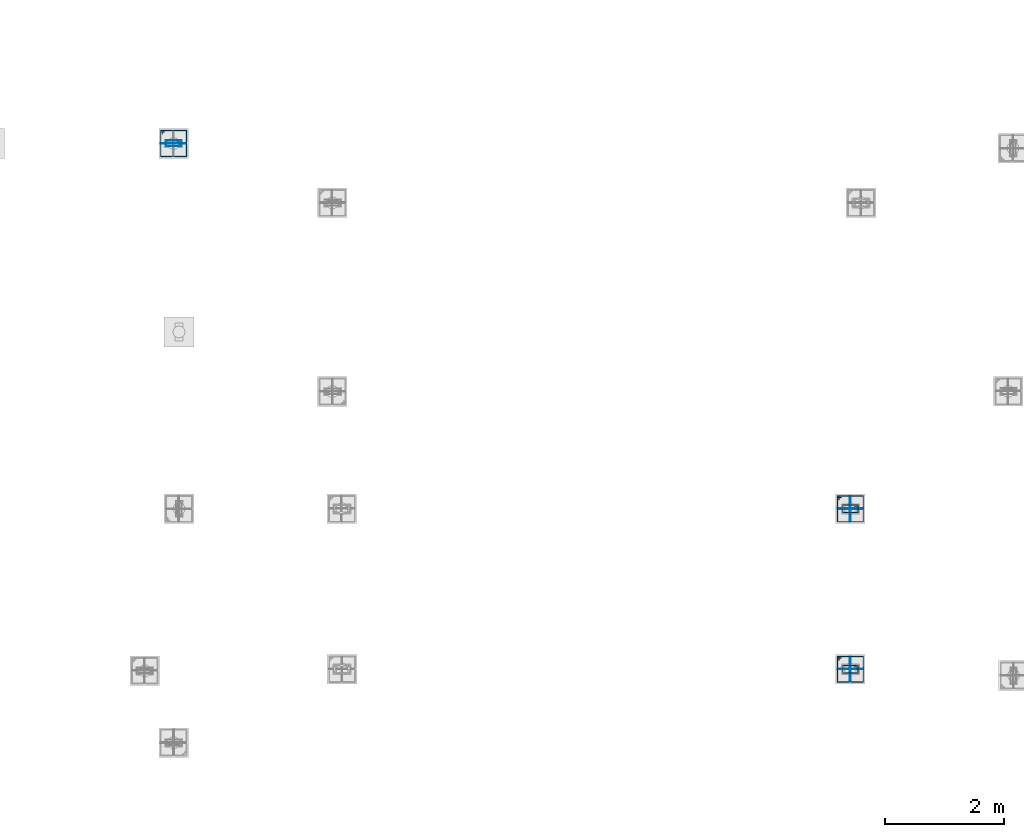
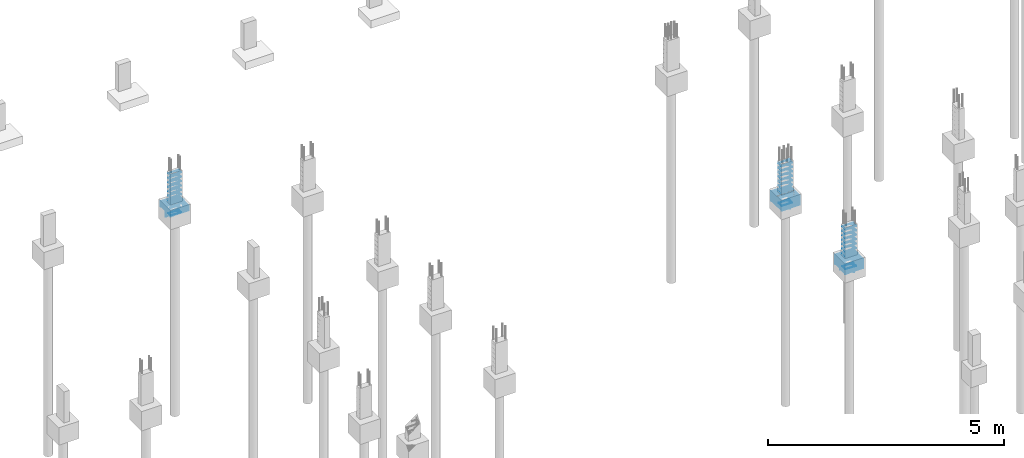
# One storey, part 106 of 119: 48 reinforcing bars.
"""IFC4 building model written with IfcOpenShell, lengths in centimetres."""

import ifcopenshell
import ifcopenshell.guid

model = None  # the IFC model being written
_history = None  # IfcOwnerHistory: only IFC2X3 demands one
_inside = {}  # id of a spatial element -> (the spatial element, [elements in it])
_under = {}  # id of a project, library or spatial element -> (it, [spatial elements below it])
_declared = {}  # id of a project -> (the project, [libraries it declares])
_typed = {}  # id of a type object -> (the type object, [elements of that type])
_made_of = {}  # id of a material, layer set ... -> (it, [elements and type objects made of it])


def new_model(schema):
    """Start an empty IFC model of exactly this schema.

    Asked for "IFC4X3", IfcOpenShell would pick the latest addendum, in which some entities
    have other attributes; the version numbers below select the first issue.
    IFC2X3 requires an IfcOwnerHistory on every rooted entity: one is made here for all.
    """
    global model, _history
    if schema == "IFC4X3":
        model = ifcopenshell.file(schema_version=(4, 3, 0, 0))
    else:
        model = ifcopenshell.file(schema=schema)
    _inside.clear()
    _under.clear()
    _declared.clear()
    _typed.clear()
    _made_of.clear()
    _history = None
    if model.schema == "IFC2X3":
        org = make("IfcOrganization", Name="unknown")
        user = make(
            "IfcPersonAndOrganization",
            ThePerson=make("IfcPerson", FamilyName="unknown"),
            TheOrganization=org,
        )
        app = make(
            "IfcApplication",
            ApplicationDeveloper=org,
            Version="unknown",
            ApplicationFullName="unknown",
            ApplicationIdentifier="unknown",
        )
        _history = make(
            "IfcOwnerHistory",
            OwningUser=user,
            OwningApplication=app,
            ChangeAction="ADDED",
            CreationDate=0,
        )
    return model


def make(cls, **values):
    """One entity of the class cls with the attributes given. An attribute that is None is left unset."""
    return model.create_entity(
        cls, **{name: value for name, value in values.items() if value is not None}
    )


def entity(cls, *values):
    """Any entity or typed value of the class cls, its attributes in the order of the schema. None: left unset."""
    e = model.create_entity(cls)
    for i, value in enumerate(values):
        if value is not None:
            e[i] = value
    return e


def rooted(cls, **values):
    """An entity with a GlobalId (a new one), such as an element, a storey or a relation."""
    return make(cls, GlobalId=ifcopenshell.guid.new(), OwnerHistory=_history, **values)


def si_unit(unit_type, name, prefix=None):
    """IfcSIUnit, for example si_unit("LENGTHUNIT", "METRE", prefix="MILLI")."""
    return make("IfcSIUnit", UnitType=unit_type, Prefix=prefix, Name=name)


def derived_unit(unit_type, elements):
    """IfcDerivedUnit: a product of units, each with its exponent."""
    return make(
        "IfcDerivedUnit",
        Elements=[
            make("IfcDerivedUnitElement", Unit=unit, Exponent=power)
            for unit, power in elements
        ],
        UnitType=unit_type,
    )


def assignment(units):
    """IfcUnitAssignment: the units of a project."""
    return None if units is None else make("IfcUnitAssignment", Units=units)


def point(xyz):
    """IfcCartesianPoint."""
    return None if xyz is None else make("IfcCartesianPoint", Coordinates=xyz)


def direction(xyz):
    """IfcDirection."""
    return None if xyz is None else make("IfcDirection", DirectionRatios=xyz)


def frame(location, z_axis=None, x_axis=None):
    """IfcAxis2Placement3D, a coordinate frame: its origin and axes. An axis left out is left unset."""
    return make(
        "IfcAxis2Placement3D",
        Location=point(location),
        Axis=direction(z_axis),
        RefDirection=direction(x_axis),
    )


def origin_with_axes():
    """The frame at (0, 0, 0) with the z axis (0, 0, 1) and the x axis (1, 0, 0) written out."""
    return frame((0.0, 0.0, 0.0), z_axis=(0.0, 0.0, 1.0), x_axis=(1.0, 0.0, 0.0))


def place(relative_to, where):
    """IfcLocalPlacement: puts the frame where relative to a parent placement (None: the world)."""
    return make(
        "IfcLocalPlacement", PlacementRelTo=relative_to, RelativePlacement=where
    )


def context(
    kind, dimensions, precision=None, world=None, true_north=None, identifier=None
):
    """IfcGeometricRepresentationContext, for example the 3D "Model" context."""
    return make(
        "IfcGeometricRepresentationContext",
        ContextIdentifier=identifier,
        ContextType=kind,
        CoordinateSpaceDimension=dimensions,
        Precision=precision,
        WorldCoordinateSystem=world,
        TrueNorth=true_north,
    )


def project(units=None, contexts=None):
    """IfcProject with its units and contexts."""
    return rooted(
        "IfcProject",
        Name="project",
        RepresentationContexts=contexts,
        UnitsInContext=assignment(units),
    )


def spatial(cls, under=None, at=None, **own):
    """A site, building, storey or space (cls), placed at a placement, below another one or the project."""
    s = rooted(cls, ObjectPlacement=at, **own)
    if under is not None:
        _under.setdefault(under.id(), (under, []))[1].append(s)
    return s


def shape(context_of_items, identifier, shape_type, items):
    """IfcShapeRepresentation: the items that make up one representation, for example the "Body"."""
    return make(
        "IfcShapeRepresentation",
        ContextOfItems=context_of_items,
        RepresentationIdentifier=identifier,
        RepresentationType=shape_type,
        Items=items,
    )


def source(mapping_origin, context_of_items, identifier, shape_type, items):
    """IfcRepresentationMap: a shape defined once, which mapped items show again and again."""
    return make(
        "IfcRepresentationMap",
        MappingOrigin=mapping_origin,
        MappedRepresentation=shape(context_of_items, identifier, shape_type, items),
    )


def transform(
    local_origin,
    x_axis=None,
    y_axis=None,
    z_axis=None,
    scale=None,
    scale2=None,
    scale3=None,
    uniform=True,
):
    """IfcCartesianTransformationOperator3D, or its non-uniform kind. x_axis, y_axis, z_axis: its Axis1, 2, 3."""
    if uniform:
        return make(
            "IfcCartesianTransformationOperator3D",
            Axis1=direction(x_axis),
            Axis2=direction(y_axis),
            LocalOrigin=point(local_origin),
            Scale=scale,
            Axis3=direction(z_axis),
        )
    return make(
        "IfcCartesianTransformationOperator3DnonUniform",
        Axis1=direction(x_axis),
        Axis2=direction(y_axis),
        LocalOrigin=point(local_origin),
        Scale=scale,
        Axis3=direction(z_axis),
        Scale2=scale2,
        Scale3=scale3,
    )


def mapped(mapping_source, mapping_target):
    """IfcMappedItem: shows the shape of a source again, moved by a transform."""
    return make(
        "IfcMappedItem", MappingSource=mapping_source, MappingTarget=mapping_target
    )


def made_of(thing, what):
    """Note that an element or type object is made of a material, layer set ...; save() writes the relation."""
    if what is not None:
        _made_of.setdefault(what.id(), (what, []))[1].append(thing)
    return thing


def element(
    cls,
    number,
    at=None,
    inside=None,
    cuts=None,
    type_object=None,
    material=None,
    context=None,
    identifier="Body",
    shape_type=None,
    held_by="IfcProductDefinitionShape",
    body=None,
    shapes=None,
    **own,
):
    """One element of the class cls, such as IfcWall. Its Tag is "e" and its number.

    at: its placement. inside: the storey or other place that contains it. cuts: it is an
    opening in that element (IfcRelVoidsElement). A single representation is given by context,
    identifier, shape_type and body (its items); several are given by shapes. held_by: the class
    of the entity that holds the representations. save() writes the other relations.
    """
    e = rooted(cls, Tag="e%d" % number, ObjectPlacement=at, **own)
    if body is not None:
        shapes = [shape(context, identifier, shape_type, body)]
    if shapes is not None:
        e.Representation = make(held_by, Representations=shapes)
    if inside is not None:
        _inside.setdefault(inside.id(), (inside, []))[1].append(e)
    if cuts is not None:
        rooted(
            "IfcRelVoidsElement", RelatingBuildingElement=cuts, RelatedOpeningElement=e
        )
    if type_object is not None:
        _typed.setdefault(type_object.id(), (type_object, []))[1].append(e)
    return made_of(e, material)


def aggregate(whole, parts):
    """IfcRelAggregates: a whole, such as a stair, and the parts it consists of."""
    return rooted("IfcRelAggregates", RelatingObject=whole, RelatedObjects=parts)


def save(model, path):
    """Write the relations noted so far, then the file.

    IfcRelAggregates (storeys below a building ...), IfcRelContainedInSpatialStructure (elements
    in a storey), IfcRelDefinesByType, IfcRelAssociatesMaterial and IfcRelDeclares: one each for
    every whole, place, type object, material and project.
    """
    for whole, parts in _under.values():
        aggregate(whole, parts)
    for where, things in _inside.values():
        rooted(
            "IfcRelContainedInSpatialStructure",
            RelatedElements=things,
            RelatingStructure=where,
        )
    for kind, things in _typed.values():
        rooted("IfcRelDefinesByType", RelatedObjects=things, RelatingType=kind)
    for what, things in _made_of.values():
        rooted("IfcRelAssociatesMaterial", RelatedObjects=things, RelatingMaterial=what)
    for by, libraries in _declared.values():
        rooted("IfcRelDeclares", RelatingContext=by, RelatedDefinitions=libraries)
    model.write(path)


model = new_model("IFC4")

# Units and contexts
model_context = context("Model", 3, precision=1e-05, world=origin_with_axes(), identifier="Body")
ifc_project = project(units=[si_unit("LENGTHUNIT", "METRE", prefix="CENTI"), si_unit("VOLUMEUNIT", "CUBIC_METRE"), si_unit("AREAUNIT", "SQUARE_METRE"), si_unit("POWERUNIT", "WATT"), si_unit("LUMINOUSFLUXUNIT", "LUMEN"), si_unit("ELECTRICCURRENTUNIT", "AMPERE"), si_unit("PRESSUREUNIT", "PASCAL", prefix="KILO"), si_unit("MASSUNIT", "GRAM", prefix="KILO"), si_unit("PLANEANGLEUNIT", "RADIAN"), derived_unit("VOLUMETRICFLOWRATEUNIT", [(si_unit("LENGTHUNIT", "METRE"), 3), (si_unit("TIMEUNIT", "SECOND"), -1)])], contexts=[model_context])

# Site, building, storey
site_placement = place(None, frame((-4000.0, 0.0, 0.0), z_axis=(0.0, 0.0, 1.0), x_axis=(1.0, 0.0, 0.0)))
site = spatial("IfcSite", under=ifc_project, at=site_placement, Name="PADRÃO")
building_placement = place(site_placement, frame((0.0, 0.0, -14.0)))
building = spatial("IfcBuilding", under=site, at=building_placement, Name="CRECHE PRÉ-ESCOLA TIPO 2")
storey_placement = place(building_placement, origin_with_axes())
storey = spatial("IfcBuildingStorey", under=building, at=storey_placement, Name="FUNDAÇÃO", CompositionType="ELEMENT", Elevation=-14.0)

# Reinforcing bars
shared_shape_1 = source(origin_with_axes(), model_context, "Body", "AdvancedSweptSolid", [
    entity("IfcSweptDiskSolid", entity("IfcCompositeCurve", [entity("IfcCompositeCurveSegment", "CONTINUOUS", True, entity("IfcPolyline", [entity("IfcCartesianPoint", [4.25, 21.75, 0.0]), entity("IfcCartesianPoint", [4.25, 27.75, 0.0])])), entity("IfcCompositeCurveSegment", "CONTINUOUS", True, entity("IfcPolyline", [entity("IfcCartesianPoint", [4.25, 27.75, 0.0]), entity("IfcCartesianPoint", [2.25, 27.75, 0.0])])), entity("IfcCompositeCurveSegment", "CONTINUOUS", True, entity("IfcPolyline", [entity("IfcCartesianPoint", [2.25, 27.75, 0.0]), entity("IfcCartesianPoint", [2.25, 2.25, 0.0])])), entity("IfcCompositeCurveSegment", "CONTINUOUS", True, entity("IfcPolyline", [entity("IfcCartesianPoint", [2.25, 2.25, 0.0]), entity("IfcCartesianPoint", [14.75, 2.25, 0.0])])), entity("IfcCompositeCurveSegment", "CONTINUOUS", True, entity("IfcPolyline", [entity("IfcCartesianPoint", [14.75, 2.25, 0.0]), entity("IfcCartesianPoint", [14.75, 27.75, -0.5])])), entity("IfcCompositeCurveSegment", "CONTINUOUS", True, entity("IfcPolyline", [entity("IfcCartesianPoint", [14.75, 27.75, -0.5]), entity("IfcCartesianPoint", [2.25, 27.75, -0.5])])), entity("IfcCompositeCurveSegment", "CONTINUOUS", True, entity("IfcPolyline", [entity("IfcCartesianPoint", [2.25, 27.75, -0.5]), entity("IfcCartesianPoint", [2.25, 25.75, -0.5])])), entity("IfcCompositeCurveSegment", "CONTINUOUS", True, entity("IfcPolyline", [entity("IfcCartesianPoint", [2.25, 25.75, -0.5]), entity("IfcCartesianPoint", [8.25, 25.75, -0.5])]))], False), 0.25),
])
for number, where, z_axis, x_axis, name in (
    (1, (2233.76, 3478.52, -5.75), (0.0, 0.0, 1.0), (0.0, -1.0, 0.0), "P42 - Estribo"),
    (2, (2233.76, 3478.52, -28.75), (0.0, 0.0, 1.0), (0.0, -1.0, 0.0), "P42 - Estribo"),
    (3, (2233.76, 3478.52, -40.25), (0.0, 0.0, 1.0), (0.0, -1.0, 0.0), "P42 - Estribo"),
    (4, (2233.76, 3478.52, -51.75), (0.0, 0.0, 1.0), (0.0, -1.0, 0.0), "P42 - Estribo"),
    (5, (2233.76, 3478.52, -63.25), (0.0, 0.0, 1.0), (0.0, -1.0, 0.0), "P42 - Estribo"),
    (6, (2233.76, 3478.52, -74.75), (0.0, 0.0, 1.0), (0.0, -1.0, 0.0), "P42 - Estribo"),
    (7, (2233.76, 3478.52, -17.25), (0.0, 0.0, 1.0), (0.0, -1.0, 0.0), "P42 - Estribo"),
    (8, (2233.76, 3478.52, -97.75), (0.0, 0.0, 1.0), (0.0, -1.0, 0.0), "P42 - Estribo"),
    (9, (2233.76, 3478.52, -86.25), (0.0, 0.0, 1.0), (0.0, -1.0, 0.0), "P42 - Estribo"),
    (10, (2233.76, 3478.52, -109.25), (0.0, 0.0, 1.0), (0.0, -1.0, 0.0), "P42 - Estribo"),
):
    element("IfcReinforcingBar", number, at=place(storey_placement, frame(where, z_axis=z_axis, x_axis=x_axis)), inside=storey, Name=name, BarLength=0.0, CrossSectionArea=1.9634954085e-05, NominalDiameter=0.5, PredefinedType="MAIN", context=model_context, shape_type="MappedRepresentation", body=[
        mapped(shared_shape_1, transform((0.0, 0.0, 0.0), scale=1.0)),
    ])
shared_shape_2 = source(origin_with_axes(), model_context, "Body", "AdvancedSweptSolid", [
    entity("IfcSweptDiskSolid", entity("IfcCompositeCurve", [entity("IfcCompositeCurveSegment", "CONTINUOUS", True, entity("IfcPolyline", [entity("IfcCartesianPoint", [2229.595, 3485.445, 0.0]), entity("IfcCartesianPoint", [2229.595, 3491.705, 0.0])])), entity("IfcCompositeCurveSegment", "CONTINUOUS", True, entity("IfcPolyline", [entity("IfcCartesianPoint", [2229.595, 3491.705, 0.0]), entity("IfcCartesianPoint", [2227.075, 3491.705, 0.0])])), entity("IfcCompositeCurveSegment", "CONTINUOUS", True, entity("IfcPolyline", [entity("IfcCartesianPoint", [2227.075, 3491.705, 0.0]), entity("IfcCartesianPoint", [2227.075, 3448.335, 0.0])])), entity("IfcCompositeCurveSegment", "CONTINUOUS", True, entity("IfcPolyline", [entity("IfcCartesianPoint", [2227.075, 3448.335, 0.0]), entity("IfcCartesianPoint", [2270.445, 3448.335, 0.63])])), entity("IfcCompositeCurveSegment", "CONTINUOUS", True, entity("IfcPolyline", [entity("IfcCartesianPoint", [2270.445, 3448.335, 0.63]), entity("IfcCartesianPoint", [2270.445, 3491.705, 0.63])])), entity("IfcCompositeCurveSegment", "CONTINUOUS", True, entity("IfcPolyline", [entity("IfcCartesianPoint", [2270.445, 3491.705, 0.63]), entity("IfcCartesianPoint", [2227.075, 3491.705, 0.63])])), entity("IfcCompositeCurveSegment", "CONTINUOUS", True, entity("IfcPolyline", [entity("IfcCartesianPoint", [2227.075, 3491.705, 0.63]), entity("IfcCartesianPoint", [2227.075, 3489.185, 0.63])])), entity("IfcCompositeCurveSegment", "CONTINUOUS", True, entity("IfcPolyline", [entity("IfcCartesianPoint", [2227.075, 3489.185, 0.63]), entity("IfcCartesianPoint", [2233.335, 3489.185, 0.63])]))], False), 0.315),
])
for number, where, z_axis, x_axis, name in (
    (11, (0.0, 0.0, -92.225), (0.0, 0.0, 1.0), (1.0, 0.0, 0.0), "P42 - Blocos (estribos)"),
    (12, (0.0, 0.0, -109.175), (0.0, 0.0, 1.0), (1.0, 0.0, 0.0), "P42 - Blocos (estribos)"),
    (13, (0.0, 0.0, -103.525), (0.0, 0.0, 1.0), (1.0, 0.0, 0.0), "P42 - Blocos (estribos)"),
    (14, (0.0, 0.0, -97.875), (0.0, 0.0, 1.0), (1.0, 0.0, 0.0), "P42 - Blocos (estribos)"),
    (15, (0.0, 0.0, -86.575), (0.0, 0.0, 1.0), (1.0, 0.0, 0.0), "P42 - Blocos (estribos)"),
):
    element("IfcReinforcingBar", number, at=place(storey_placement, frame(where, z_axis=z_axis, x_axis=x_axis)), inside=storey, Name=name, BarLength=0.0, CrossSectionArea=3.1172453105e-05, NominalDiameter=0.63, PredefinedType="MAIN", context=model_context, shape_type="MappedRepresentation", body=[
        mapped(shared_shape_2, transform((0.0, 0.0, 0.0), scale=1.0)),
    ])
shared_shape_3 = source(origin_with_axes(), model_context, "Body", "AdvancedSweptSolid", [
    entity("IfcSweptDiskSolid", entity("IfcCompositeCurve", [entity("IfcCompositeCurveSegment", "CONTINUOUS", True, entity("IfcPolyline", [entity("IfcCartesianPoint", [-14.795, -11.35, 0.0]), entity("IfcCartesianPoint", [-21.055, -11.35, 0.0])])), entity("IfcCompositeCurveSegment", "CONTINUOUS", True, entity("IfcPolyline", [entity("IfcCartesianPoint", [-21.055, -11.35, 0.0]), entity("IfcCartesianPoint", [-21.055, -13.87, 0.0])])), entity("IfcCompositeCurveSegment", "CONTINUOUS", True, entity("IfcPolyline", [entity("IfcCartesianPoint", [-21.055, -13.87, 0.0]), entity("IfcCartesianPoint", [21.055, -13.87, 0.0])])), entity("IfcCompositeCurveSegment", "CONTINUOUS", True, entity("IfcPolyline", [entity("IfcCartesianPoint", [21.055, -13.87, 0.0]), entity("IfcCartesianPoint", [21.055, 13.87, 0.63])])), entity("IfcCompositeCurveSegment", "CONTINUOUS", True, entity("IfcPolyline", [entity("IfcCartesianPoint", [21.055, 13.87, 0.63]), entity("IfcCartesianPoint", [-21.055, 13.87, 0.63])])), entity("IfcCompositeCurveSegment", "CONTINUOUS", True, entity("IfcPolyline", [entity("IfcCartesianPoint", [-21.055, 13.87, 0.63]), entity("IfcCartesianPoint", [-21.055, -13.87, 0.63])])), entity("IfcCompositeCurveSegment", "CONTINUOUS", True, entity("IfcPolyline", [entity("IfcCartesianPoint", [-21.055, -13.87, 0.63]), entity("IfcCartesianPoint", [-18.535, -13.87, 0.63])])), entity("IfcCompositeCurveSegment", "CONTINUOUS", True, entity("IfcPolyline", [entity("IfcCartesianPoint", [-18.535, -13.87, 0.63]), entity("IfcCartesianPoint", [-18.535, -7.61, 0.63])]))], False), 0.315),
])
reinforcing_bar_1_placement = place(storey_placement, frame((2248.76, 3470.02, -97.815), z_axis=(0.0, 1.0, 0.0), x_axis=(1.0, 0.0, 0.0)))
element("IfcReinforcingBar", 16, at=reinforcing_bar_1_placement, inside=storey, Name="P42 - Blocos (estribos)", BarLength=0.0, CrossSectionArea=3.1172453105e-05, NominalDiameter=0.63, PredefinedType="MAIN", context=model_context, shape_type="MappedRepresentation", body=[
    mapped(shared_shape_3, transform((0.0, 0.0, 0.0), scale=1.0)),
])
shared_shape_4 = source(origin_with_axes(), model_context, "Body", "AdvancedSweptSolid", [
    entity("IfcSweptDiskSolid", entity("IfcCompositeCurve", [entity("IfcCompositeCurveSegment", "CONTINUOUS", True, entity("IfcPolyline", [entity("IfcCartesianPoint", [-14.795, -11.35, 0.0]), entity("IfcCartesianPoint", [-21.055, -11.35, 0.0])])), entity("IfcCompositeCurveSegment", "CONTINUOUS", True, entity("IfcPolyline", [entity("IfcCartesianPoint", [-21.055, -11.35, 0.0]), entity("IfcCartesianPoint", [-21.055, -13.87, 0.0])])), entity("IfcCompositeCurveSegment", "CONTINUOUS", True, entity("IfcPolyline", [entity("IfcCartesianPoint", [-21.055, -13.87, 0.0]), entity("IfcCartesianPoint", [21.055, -13.87, 0.0])])), entity("IfcCompositeCurveSegment", "CONTINUOUS", True, entity("IfcPolyline", [entity("IfcCartesianPoint", [21.055, -13.87, 0.0]), entity("IfcCartesianPoint", [21.055, 13.87, 0.63])])), entity("IfcCompositeCurveSegment", "CONTINUOUS", True, entity("IfcPolyline", [entity("IfcCartesianPoint", [21.055, 13.87, 0.63]), entity("IfcCartesianPoint", [-21.055, 13.87, 0.63])])), entity("IfcCompositeCurveSegment", "CONTINUOUS", True, entity("IfcPolyline", [entity("IfcCartesianPoint", [-21.055, 13.87, 0.63]), entity("IfcCartesianPoint", [-21.055, -13.87, 0.63])])), entity("IfcCompositeCurveSegment", "CONTINUOUS", True, entity("IfcPolyline", [entity("IfcCartesianPoint", [-21.055, -13.87, 0.63]), entity("IfcCartesianPoint", [-18.535, -13.87, 0.63])])), entity("IfcCompositeCurveSegment", "CONTINUOUS", True, entity("IfcPolyline", [entity("IfcCartesianPoint", [-18.535, -13.87, 0.63]), entity("IfcCartesianPoint", [-18.535, -7.61, 0.63])]))], False), 0.315),
])
reinforcing_bar_2_placement = place(storey_placement, frame((2248.76, 3470.02, -97.815), z_axis=(-1.0, 0.0, 0.0), x_axis=(0.0, 1.0, 0.0)))
element("IfcReinforcingBar", 17, at=reinforcing_bar_2_placement, inside=storey, Name="P42 - Blocos (estribos)", BarLength=0.0, CrossSectionArea=3.1172453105e-05, NominalDiameter=0.63, PredefinedType="MAIN", context=model_context, shape_type="MappedRepresentation", body=[
    mapped(shared_shape_4, transform((0.0, 0.0, 0.0), scale=1.0)),
])
shared_shape_5 = source(origin_with_axes(), model_context, "Body", "AdvancedSweptSolid", [
    entity("IfcSweptDiskSolid", entity("IfcCompositeCurve", [entity("IfcCompositeCurveSegment", "CONTINUOUS", True, entity("IfcPolyline", [entity("IfcCartesianPoint", [4.25, 21.75, 0.0]), entity("IfcCartesianPoint", [4.25, 27.75, 0.0])])), entity("IfcCompositeCurveSegment", "CONTINUOUS", True, entity("IfcPolyline", [entity("IfcCartesianPoint", [4.25, 27.75, 0.0]), entity("IfcCartesianPoint", [2.25, 27.75, 0.0])])), entity("IfcCompositeCurveSegment", "CONTINUOUS", True, entity("IfcPolyline", [entity("IfcCartesianPoint", [2.25, 27.75, 0.0]), entity("IfcCartesianPoint", [2.25, 2.25, 0.0])])), entity("IfcCompositeCurveSegment", "CONTINUOUS", True, entity("IfcPolyline", [entity("IfcCartesianPoint", [2.25, 2.25, 0.0]), entity("IfcCartesianPoint", [14.75, 2.25, 0.0])])), entity("IfcCompositeCurveSegment", "CONTINUOUS", True, entity("IfcPolyline", [entity("IfcCartesianPoint", [14.75, 2.25, 0.0]), entity("IfcCartesianPoint", [14.75, 27.75, -0.5])])), entity("IfcCompositeCurveSegment", "CONTINUOUS", True, entity("IfcPolyline", [entity("IfcCartesianPoint", [14.75, 27.75, -0.5]), entity("IfcCartesianPoint", [2.25, 27.75, -0.5])])), entity("IfcCompositeCurveSegment", "CONTINUOUS", True, entity("IfcPolyline", [entity("IfcCartesianPoint", [2.25, 27.75, -0.5]), entity("IfcCartesianPoint", [2.25, 25.75, -0.5])])), entity("IfcCompositeCurveSegment", "CONTINUOUS", True, entity("IfcPolyline", [entity("IfcCartesianPoint", [2.25, 25.75, -0.5]), entity("IfcCartesianPoint", [8.25, 25.75, -0.5])]))], False), 0.25),
])
for number, where, z_axis, x_axis, name in (
    (18, (2233.76, 3208.52, -86.25), (0.0, 0.0, 1.0), (0.0, -1.0, 0.0), "P52 - Estribo"),
    (19, (2233.76, 3208.52, -5.75), (0.0, 0.0, 1.0), (0.0, -1.0, 0.0), "P52 - Estribo"),
    (20, (2233.76, 3208.52, -109.25), (0.0, 0.0, 1.0), (0.0, -1.0, 0.0), "P52 - Estribo"),
    (21, (2233.76, 3208.52, -97.75), (0.0, 0.0, 1.0), (0.0, -1.0, 0.0), "P52 - Estribo"),
    (22, (2233.76, 3208.52, -74.75), (0.0, 0.0, 1.0), (0.0, -1.0, 0.0), "P52 - Estribo"),
    (23, (2233.76, 3208.52, -63.25), (0.0, 0.0, 1.0), (0.0, -1.0, 0.0), "P52 - Estribo"),
    (24, (2233.76, 3208.52, -51.75), (0.0, 0.0, 1.0), (0.0, -1.0, 0.0), "P52 - Estribo"),
    (25, (2233.76, 3208.52, -40.25), (0.0, 0.0, 1.0), (0.0, -1.0, 0.0), "P52 - Estribo"),
    (26, (2233.76, 3208.52, -28.75), (0.0, 0.0, 1.0), (0.0, -1.0, 0.0), "P52 - Estribo"),
    (27, (2233.76, 3208.52, -17.25), (0.0, 0.0, 1.0), (0.0, -1.0, 0.0), "P52 - Estribo"),
):
    element("IfcReinforcingBar", number, at=place(storey_placement, frame(where, z_axis=z_axis, x_axis=x_axis)), inside=storey, Name=name, BarLength=0.0, CrossSectionArea=1.9634954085e-05, NominalDiameter=0.5, PredefinedType="MAIN", context=model_context, shape_type="MappedRepresentation", body=[
        mapped(shared_shape_5, transform((0.0, 0.0, 0.0), scale=1.0)),
    ])
shared_shape_6 = source(origin_with_axes(), model_context, "Body", "AdvancedSweptSolid", [
    entity("IfcSweptDiskSolid", entity("IfcCompositeCurve", [entity("IfcCompositeCurveSegment", "CONTINUOUS", True, entity("IfcPolyline", [entity("IfcCartesianPoint", [2229.595, 3215.445, 0.0]), entity("IfcCartesianPoint", [2229.595, 3221.705, 0.0])])), entity("IfcCompositeCurveSegment", "CONTINUOUS", True, entity("IfcPolyline", [entity("IfcCartesianPoint", [2229.595, 3221.705, 0.0]), entity("IfcCartesianPoint", [2227.075, 3221.705, 0.0])])), entity("IfcCompositeCurveSegment", "CONTINUOUS", True, entity("IfcPolyline", [entity("IfcCartesianPoint", [2227.075, 3221.705, 0.0]), entity("IfcCartesianPoint", [2227.075, 3178.335, 0.0])])), entity("IfcCompositeCurveSegment", "CONTINUOUS", True, entity("IfcPolyline", [entity("IfcCartesianPoint", [2227.075, 3178.335, 0.0]), entity("IfcCartesianPoint", [2270.445, 3178.335, 0.63])])), entity("IfcCompositeCurveSegment", "CONTINUOUS", True, entity("IfcPolyline", [entity("IfcCartesianPoint", [2270.445, 3178.335, 0.63]), entity("IfcCartesianPoint", [2270.445, 3221.705, 0.63])])), entity("IfcCompositeCurveSegment", "CONTINUOUS", True, entity("IfcPolyline", [entity("IfcCartesianPoint", [2270.445, 3221.705, 0.63]), entity("IfcCartesianPoint", [2227.075, 3221.705, 0.63])])), entity("IfcCompositeCurveSegment", "CONTINUOUS", True, entity("IfcPolyline", [entity("IfcCartesianPoint", [2227.075, 3221.705, 0.63]), entity("IfcCartesianPoint", [2227.075, 3219.185, 0.63])])), entity("IfcCompositeCurveSegment", "CONTINUOUS", True, entity("IfcPolyline", [entity("IfcCartesianPoint", [2227.075, 3219.185, 0.63]), entity("IfcCartesianPoint", [2233.335, 3219.185, 0.63])]))], False), 0.315),
])
for number, where, z_axis, x_axis, name in (
    (28, (0.0, 0.0, -92.225), (0.0, 0.0, 1.0), (1.0, 0.0, 0.0), "P52 - Blocos (estribos)"),
    (29, (0.0, 0.0, -86.575), (0.0, 0.0, 1.0), (1.0, 0.0, 0.0), "P52 - Blocos (estribos)"),
    (30, (0.0, 0.0, -97.875), (0.0, 0.0, 1.0), (1.0, 0.0, 0.0), "P52 - Blocos (estribos)"),
    (31, (0.0, 0.0, -103.525), (0.0, 0.0, 1.0), (1.0, 0.0, 0.0), "P52 - Blocos (estribos)"),
    (32, (0.0, 0.0, -109.175), (0.0, 0.0, 1.0), (1.0, 0.0, 0.0), "P52 - Blocos (estribos)"),
):
    element("IfcReinforcingBar", number, at=place(storey_placement, frame(where, z_axis=z_axis, x_axis=x_axis)), inside=storey, Name=name, BarLength=0.0, CrossSectionArea=3.1172453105e-05, NominalDiameter=0.63, PredefinedType="MAIN", context=model_context, shape_type="MappedRepresentation", body=[
        mapped(shared_shape_6, transform((0.0, 0.0, 0.0), scale=1.0)),
    ])
shared_shape_7 = source(origin_with_axes(), model_context, "Body", "AdvancedSweptSolid", [
    entity("IfcSweptDiskSolid", entity("IfcCompositeCurve", [entity("IfcCompositeCurveSegment", "CONTINUOUS", True, entity("IfcPolyline", [entity("IfcCartesianPoint", [-15.12, -12.0, 0.0]), entity("IfcCartesianPoint", [-21.12, -12.0, 0.0])])), entity("IfcCompositeCurveSegment", "CONTINUOUS", True, entity("IfcPolyline", [entity("IfcCartesianPoint", [-21.12, -12.0, 0.0]), entity("IfcCartesianPoint", [-21.12, -14.0, 0.0])])), entity("IfcCompositeCurveSegment", "CONTINUOUS", True, entity("IfcPolyline", [entity("IfcCartesianPoint", [-21.12, -14.0, 0.0]), entity("IfcCartesianPoint", [21.12, -14.0, 0.0])])), entity("IfcCompositeCurveSegment", "CONTINUOUS", True, entity("IfcPolyline", [entity("IfcCartesianPoint", [21.12, -14.0, 0.0]), entity("IfcCartesianPoint", [21.12, 14.0, 0.5])])), entity("IfcCompositeCurveSegment", "CONTINUOUS", True, entity("IfcPolyline", [entity("IfcCartesianPoint", [21.12, 14.0, 0.5]), entity("IfcCartesianPoint", [-21.12, 14.0, 0.5])])), entity("IfcCompositeCurveSegment", "CONTINUOUS", True, entity("IfcPolyline", [entity("IfcCartesianPoint", [-21.12, 14.0, 0.5]), entity("IfcCartesianPoint", [-21.12, -14.0, 0.5])])), entity("IfcCompositeCurveSegment", "CONTINUOUS", True, entity("IfcPolyline", [entity("IfcCartesianPoint", [-21.12, -14.0, 0.5]), entity("IfcCartesianPoint", [-19.12, -14.0, 0.5])])), entity("IfcCompositeCurveSegment", "CONTINUOUS", True, entity("IfcPolyline", [entity("IfcCartesianPoint", [-19.12, -14.0, 0.5]), entity("IfcCartesianPoint", [-19.12, -8.0, 0.5])]))], False), 0.25),
])
reinforcing_bar_3_placement = place(storey_placement, frame((2248.76, 3200.02, -97.75), z_axis=(0.0, 1.0, 0.0), x_axis=(1.0, 0.0, 0.0)))
element("IfcReinforcingBar", 33, at=reinforcing_bar_3_placement, inside=storey, Name="P52 - Blocos (estribos)", BarLength=0.0, CrossSectionArea=1.9634954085e-05, NominalDiameter=0.5, PredefinedType="MAIN", context=model_context, shape_type="MappedRepresentation", body=[
    mapped(shared_shape_7, transform((0.0, 0.0, 0.0), scale=1.0)),
])
shared_shape_8 = source(origin_with_axes(), model_context, "Body", "AdvancedSweptSolid", [
    entity("IfcSweptDiskSolid", entity("IfcCompositeCurve", [entity("IfcCompositeCurveSegment", "CONTINUOUS", True, entity("IfcPolyline", [entity("IfcCartesianPoint", [-15.12, -12.0, 0.0]), entity("IfcCartesianPoint", [-21.12, -12.0, 0.0])])), entity("IfcCompositeCurveSegment", "CONTINUOUS", True, entity("IfcPolyline", [entity("IfcCartesianPoint", [-21.12, -12.0, 0.0]), entity("IfcCartesianPoint", [-21.12, -14.0, 0.0])])), entity("IfcCompositeCurveSegment", "CONTINUOUS", True, entity("IfcPolyline", [entity("IfcCartesianPoint", [-21.12, -14.0, 0.0]), entity("IfcCartesianPoint", [21.12, -14.0, 0.0])])), entity("IfcCompositeCurveSegment", "CONTINUOUS", True, entity("IfcPolyline", [entity("IfcCartesianPoint", [21.12, -14.0, 0.0]), entity("IfcCartesianPoint", [21.12, 14.0, 0.5])])), entity("IfcCompositeCurveSegment", "CONTINUOUS", True, entity("IfcPolyline", [entity("IfcCartesianPoint", [21.12, 14.0, 0.5]), entity("IfcCartesianPoint", [-21.12, 14.0, 0.5])])), entity("IfcCompositeCurveSegment", "CONTINUOUS", True, entity("IfcPolyline", [entity("IfcCartesianPoint", [-21.12, 14.0, 0.5]), entity("IfcCartesianPoint", [-21.12, -14.0, 0.5])])), entity("IfcCompositeCurveSegment", "CONTINUOUS", True, entity("IfcPolyline", [entity("IfcCartesianPoint", [-21.12, -14.0, 0.5]), entity("IfcCartesianPoint", [-19.12, -14.0, 0.5])])), entity("IfcCompositeCurveSegment", "CONTINUOUS", True, entity("IfcPolyline", [entity("IfcCartesianPoint", [-19.12, -14.0, 0.5]), entity("IfcCartesianPoint", [-19.12, -8.0, 0.5])]))], False), 0.25),
])
reinforcing_bar_4_placement = place(storey_placement, frame((2248.76, 3200.02, -97.75), z_axis=(-1.0, 0.0, 0.0), x_axis=(0.0, 1.0, 0.0)))
element("IfcReinforcingBar", 34, at=reinforcing_bar_4_placement, inside=storey, Name="P52 - Blocos (estribos)", BarLength=0.0, CrossSectionArea=1.9634954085e-05, NominalDiameter=0.5, PredefinedType="MAIN", context=model_context, shape_type="MappedRepresentation", body=[
    mapped(shared_shape_8, transform((0.0, 0.0, 0.0), scale=1.0)),
])
shared_shape_9 = source(origin_with_axes(), model_context, "Body", "AdvancedSweptSolid", [
    entity("IfcSweptDiskSolid", entity("IfcCompositeCurve", [entity("IfcCompositeCurveSegment", "CONTINUOUS", True, entity("IfcPolyline", [entity("IfcCartesianPoint", [4.25, 21.75, 0.0]), entity("IfcCartesianPoint", [4.25, 27.75, 0.0])])), entity("IfcCompositeCurveSegment", "CONTINUOUS", True, entity("IfcPolyline", [entity("IfcCartesianPoint", [4.25, 27.75, 0.0]), entity("IfcCartesianPoint", [2.25, 27.75, 0.0])])), entity("IfcCompositeCurveSegment", "CONTINUOUS", True, entity("IfcPolyline", [entity("IfcCartesianPoint", [2.25, 27.75, 0.0]), entity("IfcCartesianPoint", [2.25, 2.25, 0.0])])), entity("IfcCompositeCurveSegment", "CONTINUOUS", True, entity("IfcPolyline", [entity("IfcCartesianPoint", [2.25, 2.25, 0.0]), entity("IfcCartesianPoint", [11.75, 2.25, 0.0])])), entity("IfcCompositeCurveSegment", "CONTINUOUS", True, entity("IfcPolyline", [entity("IfcCartesianPoint", [11.75, 2.25, 0.0]), entity("IfcCartesianPoint", [11.75, 27.75, -0.5])])), entity("IfcCompositeCurveSegment", "CONTINUOUS", True, entity("IfcPolyline", [entity("IfcCartesianPoint", [11.75, 27.75, -0.5]), entity("IfcCartesianPoint", [2.25, 27.75, -0.5])])), entity("IfcCompositeCurveSegment", "CONTINUOUS", True, entity("IfcPolyline", [entity("IfcCartesianPoint", [2.25, 27.75, -0.5]), entity("IfcCartesianPoint", [2.25, 25.75, -0.5])])), entity("IfcCompositeCurveSegment", "CONTINUOUS", True, entity("IfcPolyline", [entity("IfcCartesianPoint", [2.25, 25.75, -0.5]), entity("IfcCartesianPoint", [8.25, 25.75, -0.5])]))], False), 0.25),
])
for number, where, z_axis, x_axis, name in (
    (35, (1094.71, 4092.0, -86.25), (0.0, 0.0, 1.0), (0.0, -1.0, 0.0), "P19 - Estribo"),
    (36, (1094.71, 4092.0, -97.75), (0.0, 0.0, 1.0), (0.0, -1.0, 0.0), "P19 - Estribo"),
    (37, (1094.71, 4092.0, -74.75), (0.0, 0.0, 1.0), (0.0, -1.0, 0.0), "P19 - Estribo"),
    (38, (1094.71, 4092.0, -51.75), (0.0, 0.0, 1.0), (0.0, -1.0, 0.0), "P19 - Estribo"),
    (39, (1094.71, 4092.0, -40.25), (0.0, 0.0, 1.0), (0.0, -1.0, 0.0), "P19 - Estribo"),
    (40, (1094.71, 4092.0, -63.25), (0.0, 0.0, 1.0), (0.0, -1.0, 0.0), "P19 - Estribo"),
    (41, (1094.71, 4092.0, -5.75), (0.0, 0.0, 1.0), (0.0, -1.0, 0.0), "P19 - Estribo"),
    (42, (1094.71, 4092.0, -28.75), (0.0, 0.0, 1.0), (0.0, -1.0, 0.0), "P19 - Estribo"),
    (43, (1094.71, 4092.0, -109.25), (0.0, 0.0, 1.0), (0.0, -1.0, 0.0), "P19 - Estribo"),
    (44, (1094.71, 4092.0, -17.25), (0.0, 0.0, 1.0), (0.0, -1.0, 0.0), "P19 - Estribo"),
):
    element("IfcReinforcingBar", number, at=place(storey_placement, frame(where, z_axis=z_axis, x_axis=x_axis)), inside=storey, Name=name, BarLength=0.0, CrossSectionArea=1.9634954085e-05, NominalDiameter=0.5, PredefinedType="MAIN", context=model_context, shape_type="MappedRepresentation", body=[
        mapped(shared_shape_9, transform((0.0, 0.0, 0.0), scale=1.0)),
    ])
shared_shape_10 = source(origin_with_axes(), model_context, "Body", "AdvancedSweptSolid", [
    entity("IfcSweptDiskSolid", entity("IfcCompositeCurve", [entity("IfcCompositeCurveSegment", "CONTINUOUS", True, entity("IfcPolyline", [entity("IfcCartesianPoint", [1090.545, 4100.425, 0.0]), entity("IfcCartesianPoint", [1090.545, 4106.685, 0.0])])), entity("IfcCompositeCurveSegment", "CONTINUOUS", True, entity("IfcPolyline", [entity("IfcCartesianPoint", [1090.545, 4106.685, 0.0]), entity("IfcCartesianPoint", [1088.025, 4106.685, 0.0])])), entity("IfcCompositeCurveSegment", "CONTINUOUS", True, entity("IfcPolyline", [entity("IfcCartesianPoint", [1088.025, 4106.685, 0.0]), entity("IfcCartesianPoint", [1088.025, 4063.315, 0.0])])), entity("IfcCompositeCurveSegment", "CONTINUOUS", True, entity("IfcPolyline", [entity("IfcCartesianPoint", [1088.025, 4063.315, 0.0]), entity("IfcCartesianPoint", [1131.395, 4063.315, 0.63])])), entity("IfcCompositeCurveSegment", "CONTINUOUS", True, entity("IfcPolyline", [entity("IfcCartesianPoint", [1131.395, 4063.315, 0.63]), entity("IfcCartesianPoint", [1131.395, 4106.685, 0.63])])), entity("IfcCompositeCurveSegment", "CONTINUOUS", True, entity("IfcPolyline", [entity("IfcCartesianPoint", [1131.395, 4106.685, 0.63]), entity("IfcCartesianPoint", [1088.025, 4106.685, 0.63])])), entity("IfcCompositeCurveSegment", "CONTINUOUS", True, entity("IfcPolyline", [entity("IfcCartesianPoint", [1088.025, 4106.685, 0.63]), entity("IfcCartesianPoint", [1088.025, 4104.165, 0.63])])), entity("IfcCompositeCurveSegment", "CONTINUOUS", True, entity("IfcPolyline", [entity("IfcCartesianPoint", [1088.025, 4104.165, 0.63]), entity("IfcCartesianPoint", [1094.285, 4104.165, 0.63])]))], False), 0.315),
])
for number, where, z_axis, x_axis, name in (
    (45, (0.0, 0.0, -86.575), (0.0, 0.0, 1.0), (1.0, 0.0, 0.0), "P19 - Blocos (estribos)"),
    (46, (0.0, 0.0, -92.225), (0.0, 0.0, 1.0), (1.0, 0.0, 0.0), "P19 - Blocos (estribos)"),
    (47, (0.0, 0.0, -97.875), (0.0, 0.0, 1.0), (1.0, 0.0, 0.0), "P19 - Blocos (estribos)"),
):
    element("IfcReinforcingBar", number, at=place(storey_placement, frame(where, z_axis=z_axis, x_axis=x_axis)), inside=storey, Name=name, BarLength=0.0, CrossSectionArea=3.1172453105e-05, NominalDiameter=0.63, PredefinedType="MAIN", context=model_context, shape_type="MappedRepresentation", body=[
        mapped(shared_shape_10, transform((0.0, 0.0, 0.0), scale=1.0)),
    ])
shared_shape_11 = source(origin_with_axes(), model_context, "Body", "AdvancedSweptSolid", [
    entity("IfcSweptDiskSolid", entity("IfcCompositeCurve", [entity("IfcCompositeCurveSegment", "CONTINUOUS", True, entity("IfcPolyline", [entity("IfcCartesianPoint", [-15.12, -12.0, 0.0]), entity("IfcCartesianPoint", [-21.12, -12.0, 0.0])])), entity("IfcCompositeCurveSegment", "CONTINUOUS", True, entity("IfcPolyline", [entity("IfcCartesianPoint", [-21.12, -12.0, 0.0]), entity("IfcCartesianPoint", [-21.12, -14.0, 0.0])])), entity("IfcCompositeCurveSegment", "CONTINUOUS", True, entity("IfcPolyline", [entity("IfcCartesianPoint", [-21.12, -14.0, 0.0]), entity("IfcCartesianPoint", [21.12, -14.0, 0.0])])), entity("IfcCompositeCurveSegment", "CONTINUOUS", True, entity("IfcPolyline", [entity("IfcCartesianPoint", [21.12, -14.0, 0.0]), entity("IfcCartesianPoint", [21.12, 14.0, 0.5])])), entity("IfcCompositeCurveSegment", "CONTINUOUS", True, entity("IfcPolyline", [entity("IfcCartesianPoint", [21.12, 14.0, 0.5]), entity("IfcCartesianPoint", [-21.12, 14.0, 0.5])])), entity("IfcCompositeCurveSegment", "CONTINUOUS", True, entity("IfcPolyline", [entity("IfcCartesianPoint", [-21.12, 14.0, 0.5]), entity("IfcCartesianPoint", [-21.12, -14.0, 0.5])])), entity("IfcCompositeCurveSegment", "CONTINUOUS", True, entity("IfcPolyline", [entity("IfcCartesianPoint", [-21.12, -14.0, 0.5]), entity("IfcCartesianPoint", [-19.12, -14.0, 0.5])])), entity("IfcCompositeCurveSegment", "CONTINUOUS", True, entity("IfcPolyline", [entity("IfcCartesianPoint", [-19.12, -14.0, 0.5]), entity("IfcCartesianPoint", [-19.12, -8.0, 0.5])]))], False), 0.25),
])
reinforcing_bar_5_placement = place(storey_placement, frame((1109.71, 4085.0, -97.75), z_axis=(0.0, 1.0, 0.0), x_axis=(1.0, 0.0, 0.0)))
element("IfcReinforcingBar", 48, at=reinforcing_bar_5_placement, inside=storey, Name="P19 - Blocos (estribos)", BarLength=0.0, CrossSectionArea=1.9634954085e-05, NominalDiameter=0.5, PredefinedType="MAIN", context=model_context, shape_type="MappedRepresentation", body=[
    mapped(shared_shape_11, transform((0.0, 0.0, 0.0), scale=1.0)),
])

save(model, "model.ifc")
